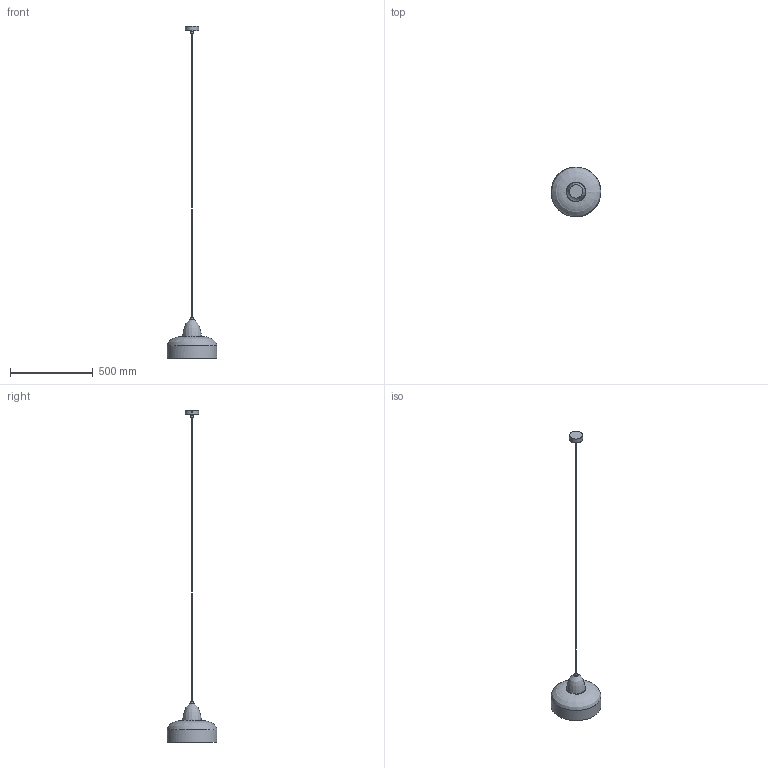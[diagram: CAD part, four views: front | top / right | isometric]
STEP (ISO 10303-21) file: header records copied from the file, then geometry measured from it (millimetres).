
FILE_DESCRIPTION ((), '1');
FILE_NAME ('C:\Users\MiCHAL\Desktop\ALDEX - Modele 3D 09.03.2023\946G1\946G1\946G1.stp', '2023-03-30T11:18:05', ('Unknown'), ('Unknown'), 'HarmonyWare STEP v2.1.4', 'HarmonyWare Translators', '');
FILE_SCHEMA (('CONFIG_CONTROL_DESIGN'));
Length unit declared in the file: centimetre
Assembly tree (9 placements, depth 2):
  (unnamed)
    (unnamed)
    (unnamed)
    (unnamed)
    (unnamed)
    (unnamed)
    (unnamed)
    (unnamed)
    (unnamed)
    (unnamed)
Bounding box: 299.99 x 299.87 x 2000 mm (x, y, z)
Volume: 833190.9 mm3; surface area: 413393.3 mm2
Topology: 7 solids, 9 shells, 36 faces, 79 edges, 72 vertices
Faces by surface type: bspline 36
Entity records: 3945 total; most frequent: CARTESIAN_POINT 1944, PERSON 98, ORGANIZATION 98, PERSON_AND_ORGANIZATION 98, ORIENTED_EDGE 96, COLOUR_RGB 71, PRESENTATION_STYLE_ASSIGNMENT 71, STYLED_ITEM 71
